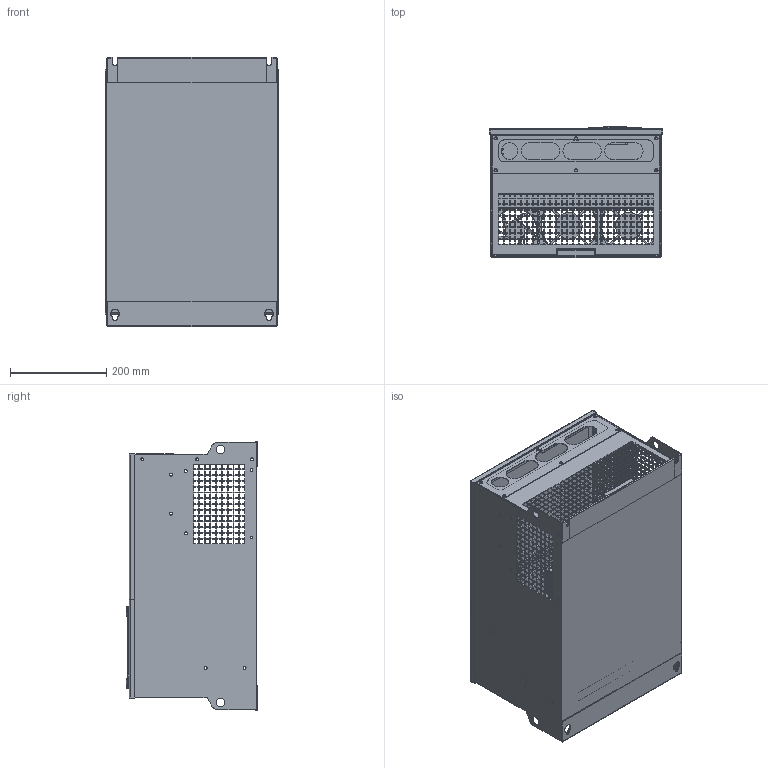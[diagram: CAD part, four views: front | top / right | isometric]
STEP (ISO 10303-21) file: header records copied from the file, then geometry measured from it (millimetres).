
FILE_DESCRIPTION((''),'2;1');
FILE_NAME('00-C5SY03_ASM_ASM','2024-03-25T',('think'),(''),'CREO PARAMETRIC BY PTC INC, 2016130','CREO PARAMETRIC BY PTC INC, 2016130','');
FILE_SCHEMA(('CONFIG_CONTROL_DESIGN'));
Products named in the file (36): C5Q01-0301-01__4; C5Q00-0301-05__1; MZJ-S-M4___1; C5Q01-0301-G01_ASM_3_ASM; MZJ-BSO-3_5M3-18_5___1; C5Q01-0301-02__3; C5SY01-0301-02__ASM_3_ASM; MZJ-S-M5___1; MZJ-S-M6___2; C5Q00-0301-04-G01_1; C5Q01-0301-04__ASM_2_ASM; 0301__1; MZJ-S-M4__3; C5Q00-0301-03__ASM_1_ASM; C5SY01-0301-G02_ASM_3_ASM; C5Q00-0304__2; C5Q00-0305-01_1_1; C5Q00-0305-02_1_1; C5Q00-0305_ASM_1_ASM_1_ASM; C5Q01-0312-01_2; MZJ-S-M5__2; C5Q01-0312_ASM_7_ASM; C5Q01-0313-01_1; C5Q01-0313__ASM_1_ASM; C5Q00-0302-01_1_1; C5Q00-0302-02_1_1; MZJ-BSO-M4-12-ZC-_1_1; C5Q00-0302_ASM_1_ASM_1_ASM; C4H03-X310-G01_1; C5SY03-03_ASM_11_ASM; FAN_12038__1_1; FAN-9225__1_1; BRACKET_ASM__1_1_1; FUJIAN__ASM_4_ASM_2_ASM; 00-C5SY03_ASM_20_ASM; 00-C5SY03_ASM_ASM
Assembly tree (79 placements, depth 6):
  00-C5SY03_ASM_ASM
    00-C5SY03_ASM_20_ASM
      C5SY03-03_ASM_11_ASM
        C5SY01-0301-G02_ASM_3_ASM
          C5Q01-0301-G01_ASM_3_ASM
            C5Q01-0301-01__4
            C5Q00-0301-05__1  x2
            MZJ-S-M4___1  x6
          C5SY01-0301-02__ASM_3_ASM
            MZJ-S-M4___1  x2
            MZJ-BSO-3_5M3-18_5___1  x2
            C5Q01-0301-02__3
          C5Q01-0301-04__ASM_2_ASM
            MZJ-S-M5___1  x2
            MZJ-S-M6___2  x2
            C5Q00-0301-04-G01_1
          C5Q00-0301-03__ASM_1_ASM  x6
            0301__1
            MZJ-S-M4__3
        C5Q00-0304__2
        C5Q00-0305_ASM_1_ASM_1_ASM
          C5Q00-0305-01_1_1
          C5Q00-0305-02_1_1
        C5Q01-0312_ASM_7_ASM
          C5Q01-0312-01_2
          MZJ-S-M5__2  x12
        C5Q01-0313__ASM_1_ASM
          C5Q01-0313-01_1
          MZJ-S-M4__3  x12
          MZJ-S-M5__2  x4
        C5Q00-0302_ASM_1_ASM_1_ASM
          C5Q00-0302-01_1_1
          C5Q00-0302-02_1_1
          MZJ-BSO-M4-12-ZC-_1_1
        C4H03-X310-G01_1
      FUJIAN__ASM_4_ASM_2_ASM
        FAN_12038__1_1  x2
        FAN-9225__1_1
        BRACKET_ASM__1_1_1
Bounding box: 360 x 272.48 x 559 mm (x, y, z)
Volume: 2067696.1 mm3; surface area: 2163854.9 mm2
Topology: 72 solids, 72 shells, 6499 faces, 17732 edges, 11588 vertices
Faces by surface type: plane 5104, cylinder 854, cone 417, bspline 62, sphere 24, extrusion 20, torus 18
Entity records: 134044 total; most frequent: CARTESIAN_POINT 27842, ORIENTED_EDGE 22238, DIRECTION 20404, EDGE_CURVE 11119, VECTOR 9460, LINE 9440, VERTEX_POINT 7295, AXIS2_PLACEMENT_3D 5472
